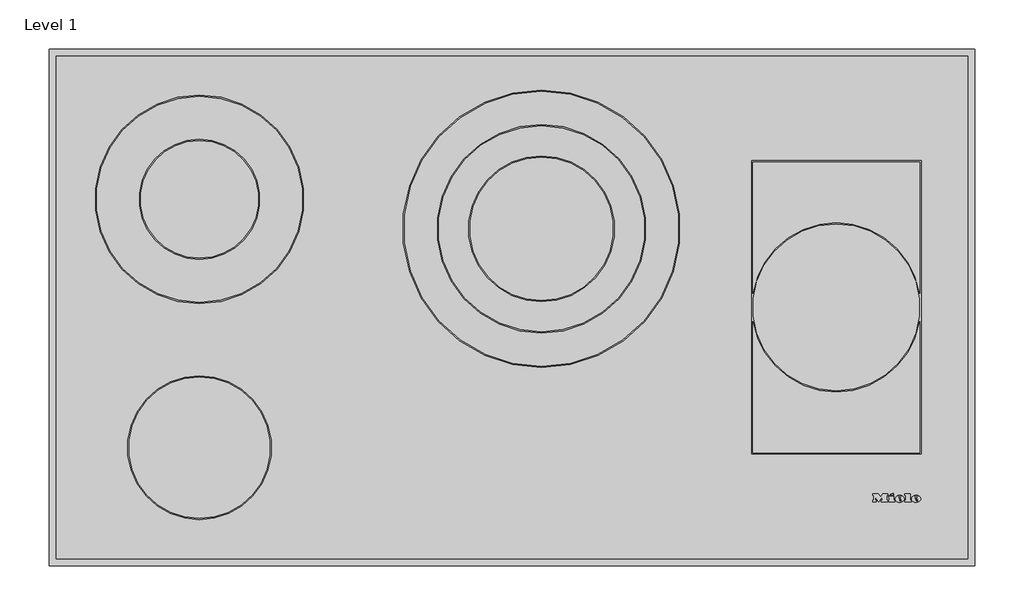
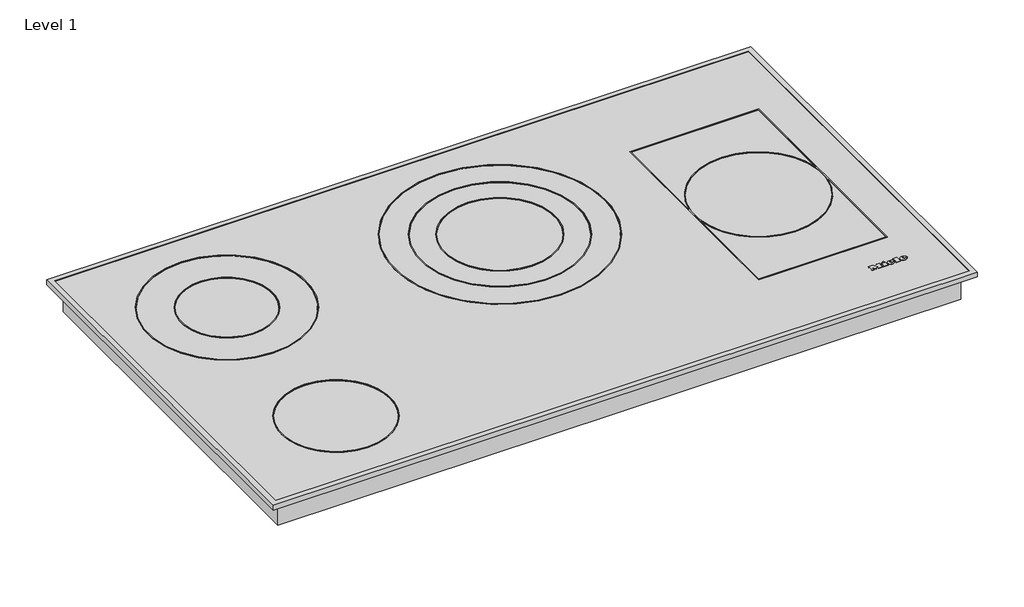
# One storey: 1 proxy.
"""IFC4 building model written with IfcOpenShell, lengths in millimetres."""

from ifc_helpers import new_model, si_unit, origin, place, context, project, spatial, transform, mapped, element, save
from components import specialty_equipment_58cac93b

model = new_model("IFC4")

# Units and contexts
model_context = context("Model", 3, world=origin())
ifc_project = project(units=[si_unit("LENGTHUNIT", "METRE", prefix="MILLI")], contexts=[model_context])

# Site, building, storey
site = spatial("IfcSite", under=ifc_project)
building = spatial("IfcBuilding", under=site)
storey = spatial("IfcBuildingStorey", under=building, Name="Level 1", Elevation=0.0)

# Proxy
placement = place(None, origin())
specialty_equipment_shape = specialty_equipment_58cac93b(model_context)
element("IfcBuildingElementProxy", 1, Name="10941510_RU_KM6565FR : 26656500_RU_10941510_KM6565FR", ObjectType="10941510_RU_KM6565FR : 26656500_RU_10941510_KM6565FR", at=placement, inside=storey, context=model_context, shape_type="MappedRepresentation", body=[
    mapped(specialty_equipment_shape, transform((0.0, 0.0, 0.0), x_axis=(1.0, 0.0, 0.0), y_axis=(0.0, 1.0, 0.0), z_axis=(0.0, 0.0, 1.0))),
])

save(model, "model.ifc")
